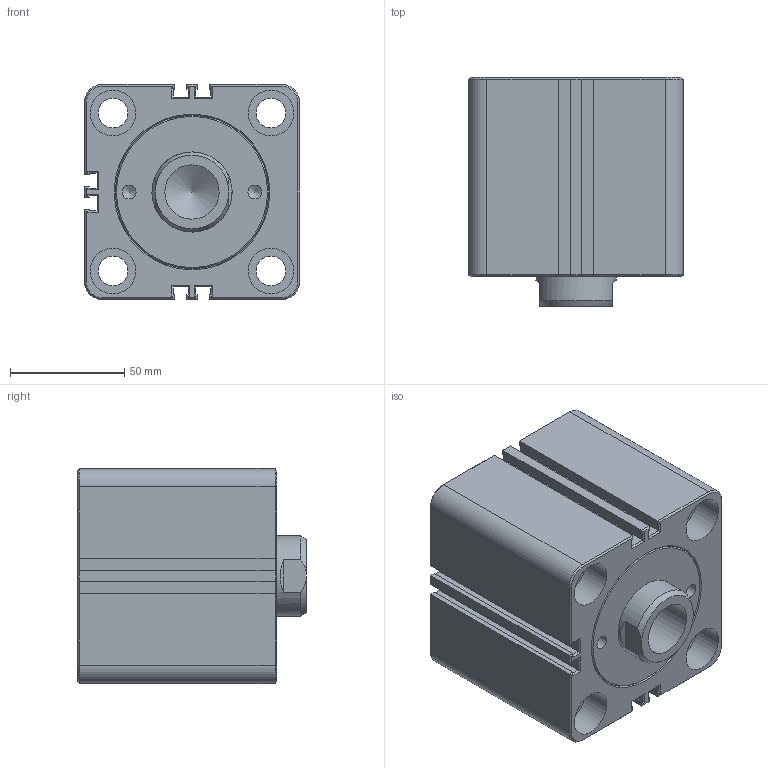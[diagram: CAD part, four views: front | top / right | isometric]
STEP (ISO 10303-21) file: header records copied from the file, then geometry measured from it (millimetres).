
FILE_DESCRIPTION(/* description */ ('Unknown'),/* implementation_level */ '2;1');
FILE_NAME(/* name */ 'HTM70-SDMB63X20N',/* time_stamp */ '2022-08-31T05:45:46+08:00',/* author */ ('Unknown'),/* organization */ ('Unknown'),/* preprocessor_version */ 'ST-DEVELOPER v16.7',/* originating_system */ 'DEX',/* authorisation */ $);
FILE_SCHEMA (('AUTOMOTIVE_DESIGN {1 0 10303 214 3 1 1}'));
Length unit declared in the file: millimetre
Products named in the file (1): HTM70-SDMB63X20N
Bounding box: 94 x 100 x 94 mm (x, y, z)
Volume: 672059.3 mm3; surface area: 77370.9 mm2
Topology: 1 solids, 1 shells, 281 faces, 634 edges, 373 vertices
Faces by surface type: plane 180, cone 38, bspline 36, cylinder 27
Full cylindrical faces by diameter (mm): 6 x1, 6.1 x2, 7 x2, 13 x4, 15 x2, 16.5 x2, 20 x8, 23.752 x1, 35 x1
Entity records: 9651 total; most frequent: CARTESIAN_POINT 1853, ORIENTED_EDGE 1162, DIRECTION 1112, EDGE_CURVE 581, LINE 402, VECTOR 402, VERTEX_POINT 358, AXIS2_PLACEMENT_3D 355
